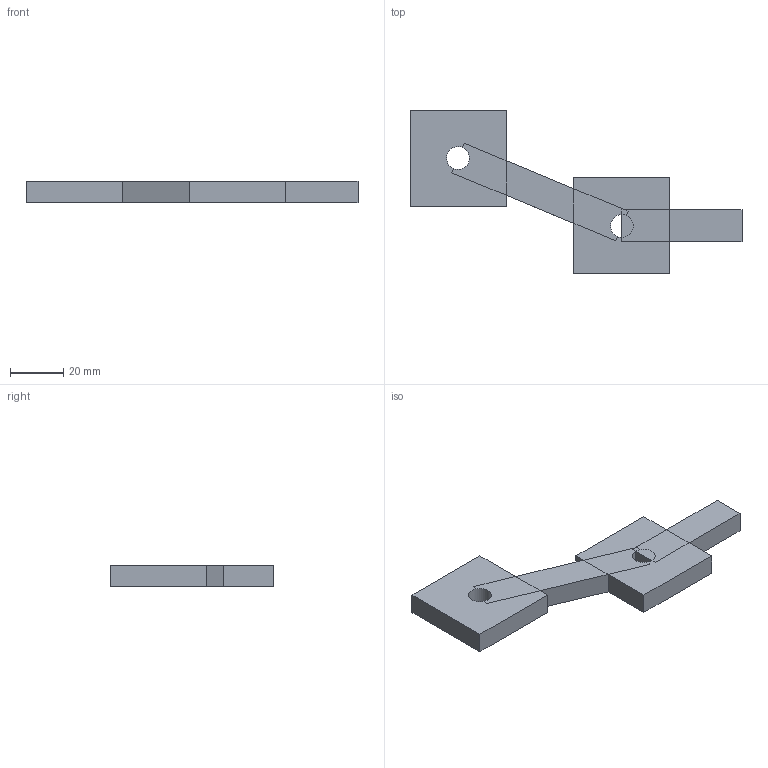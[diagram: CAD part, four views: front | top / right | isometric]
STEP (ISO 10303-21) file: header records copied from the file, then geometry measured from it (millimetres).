
FILE_DESCRIPTION(('Open CASCADE Model'),'2;1');
FILE_NAME('Open CASCADE Shape Model','2026-10-04T02:31:45',('Author'),( 'Open CASCADE'),'Open CASCADE STEP processor 8.0','Open CASCADE 8.0' ,'Unknown');
FILE_SCHEMA(('AUTOMOTIVE_DESIGN { 1 0 10303 214 1 1 1 1 }'));
Length unit declared in the file: millimetre
Products named in the file (1): Open CASCADE STEP translator 8.0 353
Bounding box: 124.46 x 61.46 x 8 mm (x, y, z)
Volume: 25276.1 mm3; surface area: 9681.1 mm2
Topology: 1 solids, 1 shells, 39 faces, 103 edges, 62 vertices
Faces by surface type: plane 37, cylinder 2
Full cylindrical faces by diameter (mm): 8.6 x1
Entity records: 2572 total; most frequent: CARTESIAN_POINT 495, DIRECTION 391, LINE 271, VECTOR 271, ORIENTED_EDGE 206, PCURVE 206, DEFINITIONAL_REPRESENTATION 206, EDGE_CURVE 103
